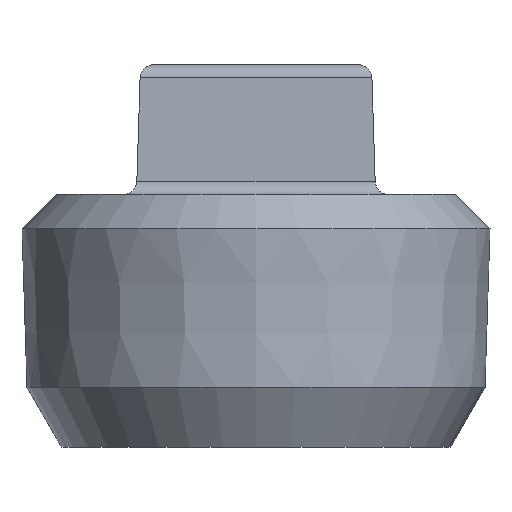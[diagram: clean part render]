
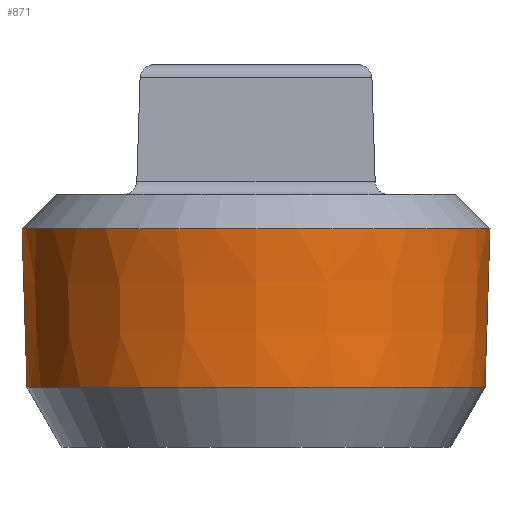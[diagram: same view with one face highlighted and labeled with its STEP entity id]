
A CAD part, front view. The second image highlights one B-rep face of the part: STEP entity #871.
In plain terms, the highlighted conical face has half-angle 1.8 degrees and reference radius 17.2 mm.
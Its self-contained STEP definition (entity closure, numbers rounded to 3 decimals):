
#840=CARTESIAN_POINT('',(16.757,0.,-14.104));
#841=VERTEX_POINT('',#840);
#842=CARTESIAN_POINT('',(0.0,0.,-14.104));
#843=DIRECTION('',(0.0,0.0,-1.0));
#844=DIRECTION('',(-1.0,0.0,0.0));
#845=AXIS2_PLACEMENT_3D('',#842,#843,#844);
#846=CIRCLE('',#845,16.757);
#847=EDGE_CURVE('',#841,#841,#846,.T.);
#852=CARTESIAN_POINT('',(0.0,0.0,0.0));
#853=DIRECTION('',(0.0,0.0,1.0));
#854=DIRECTION('',(-1.0,0.0,0.0));
#855=AXIS2_PLACEMENT_3D('',#852,#853,#854);
#856=CONICAL_SURFACE('',#855,17.2,1.8);
#857=CARTESIAN_POINT('',(17.121,0.0,-2.521));
#858=VERTEX_POINT('',#857);
#859=CARTESIAN_POINT('',(0.0,0.,-2.521));
#860=DIRECTION('',(0.0,0.0,1.0));
#861=DIRECTION('',(-1.0,0.0,0.0));
#862=AXIS2_PLACEMENT_3D('',#859,#860,#861);
#863=CIRCLE('',#862,17.121);
#864=EDGE_CURVE('',#858,#858,#863,.T.);
#865=ORIENTED_EDGE('',*,*,#864,.F.);
#866=EDGE_LOOP('',(#865));
#867=FACE_OUTER_BOUND('',#866,.T.);
#868=ORIENTED_EDGE('',*,*,#847,.F.);
#869=EDGE_LOOP('',(#868));
#870=FACE_BOUND('',#869,.T.);
#871=ADVANCED_FACE('',(#867,#870),#856,.T.);
